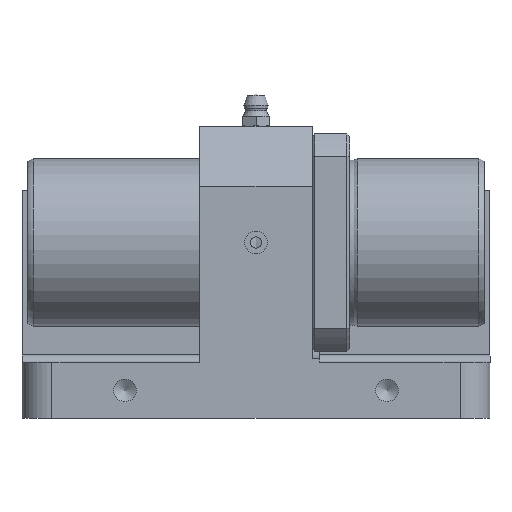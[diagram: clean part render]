
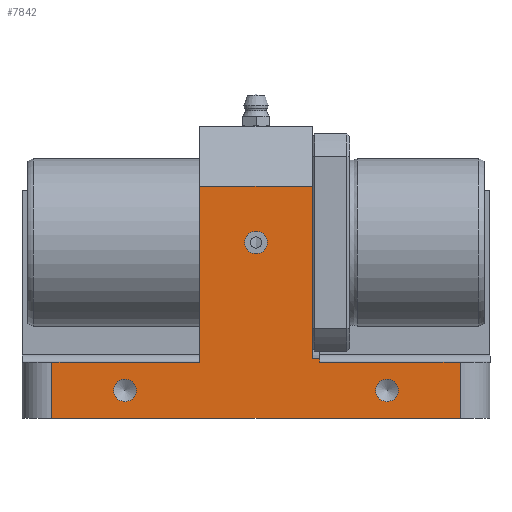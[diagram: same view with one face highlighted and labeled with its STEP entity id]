
A CAD part, front view. The second image highlights one B-rep face of the part: STEP entity #7842.
In plain terms, the highlighted planar face has unit normal (0, -1, 0).
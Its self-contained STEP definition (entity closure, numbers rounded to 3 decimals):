
#7696=CARTESIAN_POINT('',(117.,-90.0,15.));
#7697=VERTEX_POINT('',#7696);
#7705=CARTESIAN_POINT('',(117.,-90.0,0.0));
#7706=VERTEX_POINT('',#7705);
#7707=CARTESIAN_POINT('',(117.,-90.0,15.));
#7708=DIRECTION('',(0.0,0.0,-1.0));
#7709=VECTOR('',#7708,15.);
#7710=LINE('',#7707,#7709);
#7711=EDGE_CURVE('',#7697,#7706,#7710,.T.);
#7731=CARTESIAN_POINT('',(125.0,-90.0,0.0));
#7732=DIRECTION('',(0.0,-1.0,0.0));
#7733=DIRECTION('',(0.0,0.0,-1.0));
#7734=AXIS2_PLACEMENT_3D('',#7731,#7732,#7733);
#7735=PLANE('',#7734);
#7736=ORIENTED_EDGE('',*,*,#7711,.F.);
#7737=CARTESIAN_POINT('',(79.5,-90.0,15.));
#7738=VERTEX_POINT('',#7737);
#7739=CARTESIAN_POINT('',(117.,-90.0,15.));
#7740=DIRECTION('',(-1.0,0.0,0.0));
#7741=VECTOR('',#7740,37.5);
#7742=LINE('',#7739,#7741);
#7743=EDGE_CURVE('',#7697,#7738,#7742,.T.);
#7744=ORIENTED_EDGE('',*,*,#7743,.T.);
#7745=CARTESIAN_POINT('',(79.5,-90.0,16.));
#7746=VERTEX_POINT('',#7745);
#7747=CARTESIAN_POINT('',(79.5,-90.0,15.));
#7748=DIRECTION('',(0.0,0.0,1.0));
#7749=VECTOR('',#7748,1.);
#7750=LINE('',#7747,#7749);
#7751=EDGE_CURVE('',#7738,#7746,#7750,.T.);
#7752=ORIENTED_EDGE('',*,*,#7751,.T.);
#7753=CARTESIAN_POINT('',(77.5,-90.0,16.));
#7754=VERTEX_POINT('',#7753);
#7755=CARTESIAN_POINT('',(77.5,-90.0,16.));
#7756=DIRECTION('',(1.0,0.0,0.0));
#7757=VECTOR('',#7756,2.0);
#7758=LINE('',#7755,#7757);
#7759=EDGE_CURVE('',#7754,#7746,#7758,.T.);
#7760=ORIENTED_EDGE('',*,*,#7759,.F.);
#7761=CARTESIAN_POINT('',(77.5,-90.0,62.));
#7762=VERTEX_POINT('',#7761);
#7763=CARTESIAN_POINT('',(77.5,-90.0,16.));
#7764=DIRECTION('',(0.0,0.0,1.0));
#7765=VECTOR('',#7764,46.);
#7766=LINE('',#7763,#7765);
#7767=EDGE_CURVE('',#7754,#7762,#7766,.T.);
#7768=ORIENTED_EDGE('',*,*,#7767,.T.);
#7769=CARTESIAN_POINT('',(47.5,-90.0,62.));
#7770=VERTEX_POINT('',#7769);
#7771=CARTESIAN_POINT('',(47.5,-90.0,62.));
#7772=DIRECTION('',(1.0,0.0,0.0));
#7773=VECTOR('',#7772,30.);
#7774=LINE('',#7771,#7773);
#7775=EDGE_CURVE('',#7770,#7762,#7774,.T.);
#7776=ORIENTED_EDGE('',*,*,#7775,.F.);
#7777=CARTESIAN_POINT('',(47.5,-90.0,15.));
#7778=VERTEX_POINT('',#7777);
#7779=CARTESIAN_POINT('',(47.5,-90.0,62.));
#7780=DIRECTION('',(0.0,0.0,-1.0));
#7781=VECTOR('',#7780,47.);
#7782=LINE('',#7779,#7781);
#7783=EDGE_CURVE('',#7770,#7778,#7782,.T.);
#7784=ORIENTED_EDGE('',*,*,#7783,.T.);
#7785=CARTESIAN_POINT('',(8.,-90.0,15.));
#7786=VERTEX_POINT('',#7785);
#7787=CARTESIAN_POINT('',(47.5,-90.0,15.));
#7788=DIRECTION('',(-1.0,0.0,0.0));
#7789=VECTOR('',#7788,39.5);
#7790=LINE('',#7787,#7789);
#7791=EDGE_CURVE('',#7778,#7786,#7790,.T.);
#7792=ORIENTED_EDGE('',*,*,#7791,.T.);
#7793=CARTESIAN_POINT('',(8.,-90.0,0.0));
#7794=VERTEX_POINT('',#7793);
#7795=CARTESIAN_POINT('',(8.,-90.0,0.0));
#7796=DIRECTION('',(0.0,0.0,1.0));
#7797=VECTOR('',#7796,15.);
#7798=LINE('',#7795,#7797);
#7799=EDGE_CURVE('',#7794,#7786,#7798,.T.);
#7800=ORIENTED_EDGE('',*,*,#7799,.F.);
#7801=CARTESIAN_POINT('',(8.,-90.0,0.0));
#7802=DIRECTION('',(1.0,0.0,0.0));
#7803=VECTOR('',#7802,109.);
#7804=LINE('',#7801,#7803);
#7805=EDGE_CURVE('',#7794,#7706,#7804,.T.);
#7806=ORIENTED_EDGE('',*,*,#7805,.T.);
#7807=EDGE_LOOP('',(#7736,#7744,#7752,#7760,#7768,#7776,#7784,#7792,#7800,#7806));
#7808=FACE_OUTER_BOUND('',#7807,.T.);
#7809=CARTESIAN_POINT('',(100.5,-90.0,7.5));
#7810=VERTEX_POINT('',#7809);
#7811=CARTESIAN_POINT('',(97.5,-90.0,7.5));
#7812=DIRECTION('',(0.0,1.0,0.0));
#7813=DIRECTION('',(1.0,0.0,0.0));
#7814=AXIS2_PLACEMENT_3D('',#7811,#7812,#7813);
#7815=CIRCLE('',#7814,3.);
#7816=EDGE_CURVE('',#7810,#7810,#7815,.T.);
#7817=ORIENTED_EDGE('',*,*,#7816,.T.);
#7818=EDGE_LOOP('',(#7817));
#7819=FACE_BOUND('',#7818,.T.);
#7820=CARTESIAN_POINT('',(30.5,-90.0,7.5));
#7821=VERTEX_POINT('',#7820);
#7822=CARTESIAN_POINT('',(27.5,-90.0,7.5));
#7823=DIRECTION('',(0.0,1.0,0.0));
#7824=DIRECTION('',(1.0,0.0,0.0));
#7825=AXIS2_PLACEMENT_3D('',#7822,#7823,#7824);
#7826=CIRCLE('',#7825,3.);
#7827=EDGE_CURVE('',#7821,#7821,#7826,.T.);
#7828=ORIENTED_EDGE('',*,*,#7827,.T.);
#7829=EDGE_LOOP('',(#7828));
#7830=FACE_BOUND('',#7829,.T.);
#7831=CARTESIAN_POINT('',(65.5,-90.0,47.));
#7832=VERTEX_POINT('',#7831);
#7833=CARTESIAN_POINT('',(62.5,-90.0,47.));
#7834=DIRECTION('',(0.0,1.0,0.0));
#7835=DIRECTION('',(1.0,0.0,0.0));
#7836=AXIS2_PLACEMENT_3D('',#7833,#7834,#7835);
#7837=CIRCLE('',#7836,3.);
#7838=EDGE_CURVE('',#7832,#7832,#7837,.T.);
#7839=ORIENTED_EDGE('',*,*,#7838,.T.);
#7840=EDGE_LOOP('',(#7839));
#7841=FACE_BOUND('',#7840,.T.);
#7842=ADVANCED_FACE('',(#7808,#7819,#7830,#7841),#7735,.T.);
